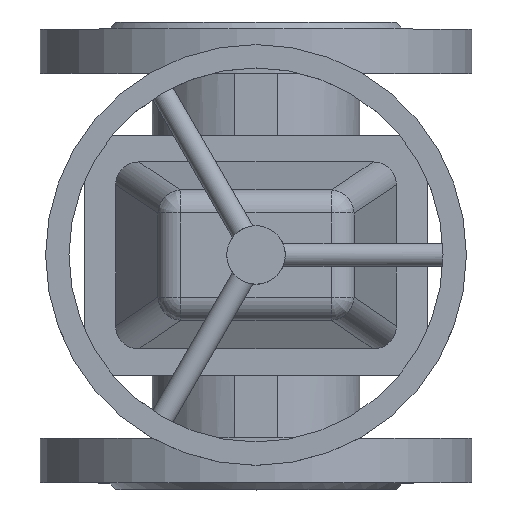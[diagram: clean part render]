
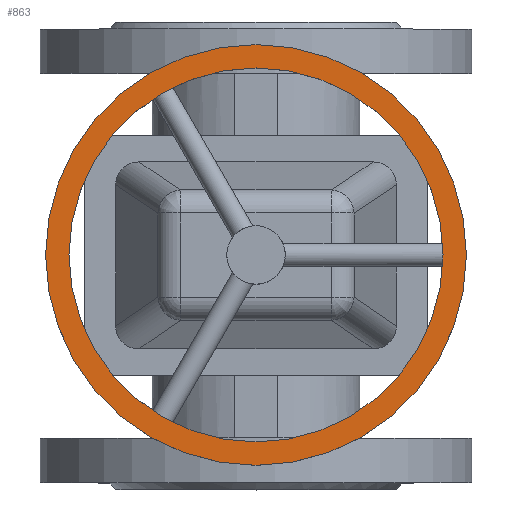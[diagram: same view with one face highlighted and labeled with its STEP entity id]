
A CAD part, top view. The second image highlights one B-rep face of the part: STEP entity #863.
In plain terms, the highlighted planar face has unit normal (0, 0, 1).
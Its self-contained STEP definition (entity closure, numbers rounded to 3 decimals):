
#863=ADVANCED_FACE('',(#1892,#1894),#1896,.T.);
#1892=FACE_BOUND('',#1893,.T.);
#1893=EDGE_LOOP('',(#2325));
#1894=FACE_BOUND('',#1895,.T.);
#1895=EDGE_LOOP('',(#2326));
#1896=PLANE('',#1897);
#1897=AXIS2_PLACEMENT_3D('',#1898,#1899,#1900);
#1898=CARTESIAN_POINT('',(0.,0.,256.5));
#1899=DIRECTION('',(0.,0.,1.));
#1900=DIRECTION('',(0.,-1.,0.));
#2325=ORIENTED_EDGE('',*,*,#2535,.T.);
#2326=ORIENTED_EDGE('',*,*,#2533,.T.);
#2533=EDGE_CURVE('',#2879,#2879,#2880,.F.);
#2535=EDGE_CURVE('',#2883,#2883,#2884,.T.);
#2879=VERTEX_POINT('',#4349);
#2880=CIRCLE('',#4350,80.);
#2883=VERTEX_POINT('',#4359);
#2884=CIRCLE('',#4360,90.);
#4349=CARTESIAN_POINT('',(0.,-80.,256.5));
#4350=AXIS2_PLACEMENT_3D('',#4351,#4352,#4353);
#4351=CARTESIAN_POINT('',(0.,0.,256.5));
#4352=DIRECTION('',(0.,0.,1.));
#4353=DIRECTION('',(0.,-1.,0.));
#4359=CARTESIAN_POINT('',(0.,-90.,256.5));
#4360=AXIS2_PLACEMENT_3D('',#4361,#4362,#4363);
#4361=CARTESIAN_POINT('',(0.,0.,256.5));
#4362=DIRECTION('',(0.,0.,1.));
#4363=DIRECTION('',(0.,-1.,0.));
